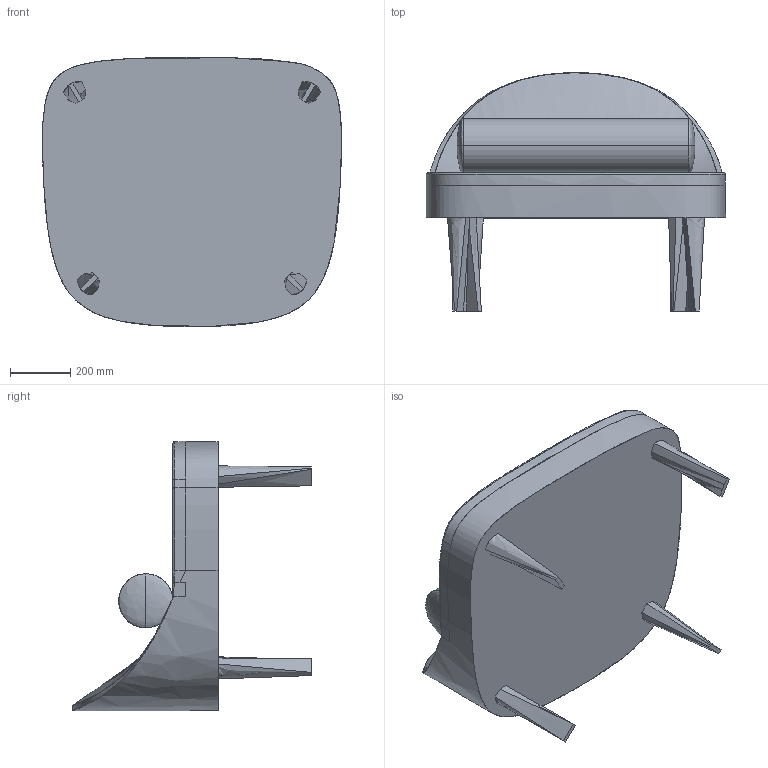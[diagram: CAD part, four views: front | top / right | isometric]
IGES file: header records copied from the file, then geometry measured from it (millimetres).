
Start section: SolidWorks IGES file using analytic representation for surfaces
Global section: file name: C:\Users\serena.trevisiol\Documents\BLA e BLABLA 3D\BLA.IGS; native system: SolidWorks 2016; preprocessor: SolidWorks 2016; author: serena.trevisiol; date: 160511.113023; units: millimetre
Bounding box: 993.15 x 792.84 x 894.02 mm (x, y, z)
Surface area: 4180658 mm2 (no closed solid volume)
Topology: 0 solids, 0 shells, 64 faces, 1684 edges, 1680 vertices
Faces by surface type: bspline 62, revolution 2
